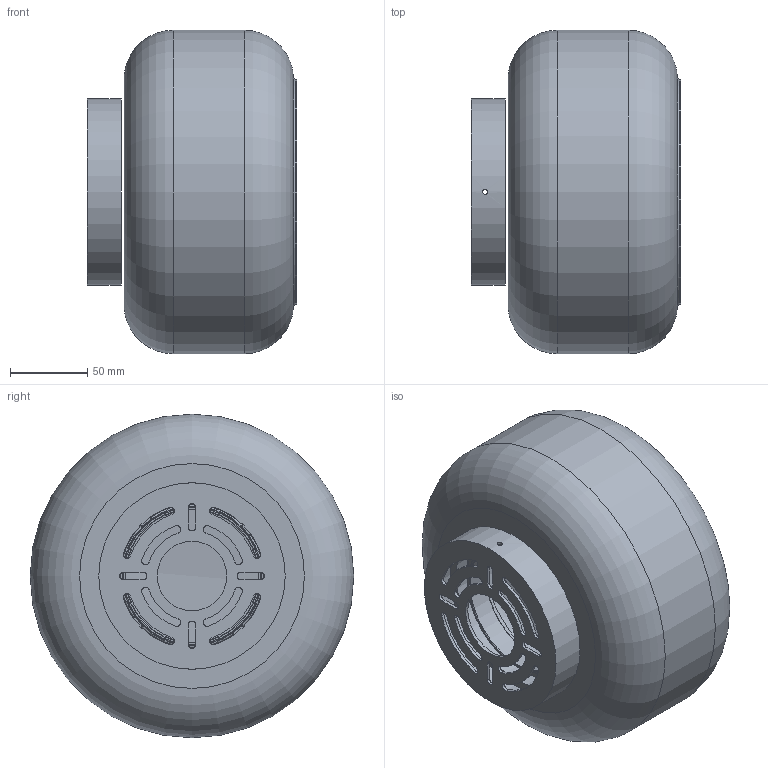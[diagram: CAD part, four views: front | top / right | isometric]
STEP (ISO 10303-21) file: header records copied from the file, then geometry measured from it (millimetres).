
FILE_DESCRIPTION(/* description */ (''),/* implementation_level */ '2;1');
FILE_NAME(/* name */ 'trufa wall.step',/* time_stamp */ '2023-01-26T16:53:26-06:00',/* author */ (''),/* organization */ (''),/* preprocessor_version */ 'ST-DEVELOPER v19.2',/* originating_system */ 'Autodesk Translation Framework v11.17.0.187',/* authorisation */ '');
FILE_SCHEMA (('AUTOMOTIVE_DESIGN { 1 0 10303 214 3 1 1 }'));
Length unit declared in the file: millimetre
Products named in the file (26): canopy 01; Trufa-VS0051WALL-V40-technic v9; top-part (2); GX53 v3 (1); cover (2) (1); pastic (1); socket (1); 92095A504_Button Head Hex Drive Screw (2); rubber-top (2); distance tube (3); cable-fixation v2 (2); 92095A179_Button Head Hex Drive Screw (2); 98886A826_High-Strength High-Temperature PEEK Hex Nut (2); 94500A266_316 Stainless Steel Button Head Hex Drive Screws (2); Trufa-VS0051-V20-MG1 v4 (2); Trufa-VS0051-V19-glass-cover v1 (2); fixing-screw-M3 v1 (2); Trufa-VS0051-V34-plastic-ring v2 (2); Trufa-VS0051-V39-technic_Trufa-VS0051-V37-technic_socket holder v6 v6
 (2); wall-canopy; wall-holder; 92605A113_Stainless Steel Flat-Tip Set Screw; terminal-block v9; electro-connector v2; electro-connector v2 (1); electro-connector v2 (2)
Assembly tree (36 placements, depth 5):
  canopy 01
    Trufa-VS0051WALL-V40-technic v9
      top-part (2)
        GX53 v3 (1)
          cover (2) (1)
          pastic (1)
          socket (1)
        distance tube (3)  x3
        92095A504_Button Head Hex Drive Screw (2)  x4
        rubber-top (2)
        cable-fixation v2 (2)
        92095A179_Button Head Hex Drive Screw (2)  x2
        94500A266_316 Stainless Steel Button Head Hex Drive Screws (2)  x3
        98886A826_High-Strength High-Temperature PEEK Hex Nut (2)  x3
      Trufa-VS0051-V20-MG1 v4 (2)
      Trufa-VS0051-V19-glass-cover v1 (2)
        fixing-screw-M3 v1 (2)
      Trufa-VS0051-V34-plastic-ring v2 (2)
      Trufa-VS0051-V39-technic_Trufa-VS0051-V37-technic_socket holder v6 v6
 (2)
      wall-canopy
      wall-holder
      92605A113_Stainless Steel Flat-Tip Set Screw  x2
      terminal-block v9
        electro-connector v2
        electro-connector v2 (1)
        electro-connector v2 (2)
Bounding box: 135.77 x 210 x 210 mm (x, y, z)
Volume: 698443.3 mm3; surface area: 280327.8 mm2
Topology: 3 solids, 3 shells, 156 faces, 368 edges, 227 vertices
Faces by surface type: cylinder 74, plane 34, sphere 18, bspline 16, torus 14
Full cylindrical faces by diameter (mm): 3.332 x2, 45 x1, 86.023 x1, 90 x1, 110 x1, 116 x1, 117 x1, 120 x1, 121 x1, 130 x1, 146 x1, 200 x1, 210 x1
Entity records: 6061 total; most frequent: CARTESIAN_POINT 1517, DIRECTION 989, ORIENTED_EDGE 736, AXIS2_PLACEMENT_3D 439, EDGE_CURVE 368, VERTEX_POINT 227, EDGE_LOOP 197, CIRCLE 187
